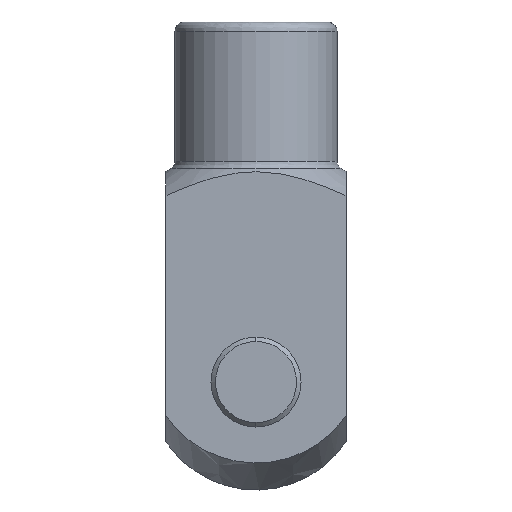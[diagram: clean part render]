
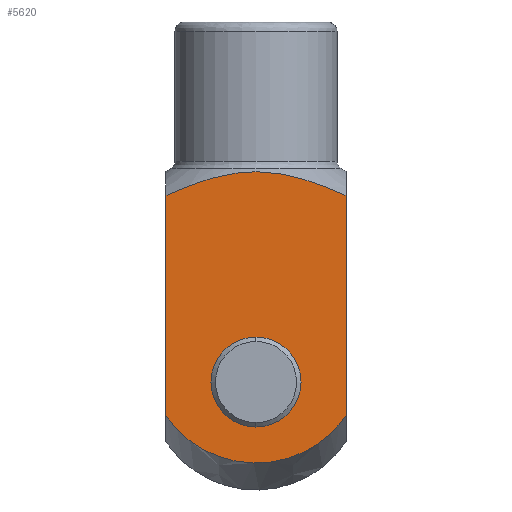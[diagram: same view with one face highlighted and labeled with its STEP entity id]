
A CAD part, front view. The second image highlights one B-rep face of the part: STEP entity #5620.
In plain terms, the highlighted planar face has unit normal (0, -1, 0).
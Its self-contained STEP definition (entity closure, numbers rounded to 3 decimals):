
#160 = EDGE_LOOP ( 'NONE', ( #5506, #3307 ) ) ;
#201 = VERTEX_POINT ( 'NONE', #1788 ) ;
#258 = DIRECTION ( 'NONE',  ( 0., 0., -1. ) ) ;
#342 = CARTESIAN_POINT ( 'NONE',  ( 4.693, -10., 34.702 ) ) ;
#376 = CARTESIAN_POINT ( 'NONE',  ( 0., -10., 17. ) ) ;
#416 = DIRECTION ( 'NONE',  ( 0., 0., 1. ) ) ;
#423 = DIRECTION ( 'NONE',  ( 0., -1., 0. ) ) ;
#678 = LINE ( 'NONE', #5809, #4954 ) ;
#822 = EDGE_CURVE ( 'NONE', #201, #1258, #4290, .T. ) ;
#855 = CARTESIAN_POINT ( 'NONE',  ( 5.951, -10., 34.337 ) ) ;
#893 = CARTESIAN_POINT ( 'NONE',  ( -5.976, -10., 34.329 ) ) ;
#940 = CARTESIAN_POINT ( 'NONE',  ( 9.204, -10., 33.086 ) ) ;
#1008 = CIRCLE ( 'NONE', #3847, 5. ) ;
#1065 = FACE_BOUND ( 'NONE', #160, .T. ) ;
#1102 = EDGE_LOOP ( 'NONE', ( #4644, #2074, #1601, #5604 ) ) ;
#1239 = VERTEX_POINT ( 'NONE', #6024 ) ;
#1244 = EDGE_CURVE ( 'NONE', #1258, #3290, #2148, .T. ) ;
#1258 = VERTEX_POINT ( 'NONE', #4548 ) ;
#1350 = CARTESIAN_POINT ( 'NONE',  ( 8.401, -10., 33.426 ) ) ;
#1443 = VERTEX_POINT ( 'NONE', #376 ) ;
#1601 = ORIENTED_EDGE ( 'NONE', *, *, #4192, .F. ) ;
#1777 = CARTESIAN_POINT ( 'NONE',  ( 10., -10., 8.254 ) ) ;
#1788 = CARTESIAN_POINT ( 'NONE',  ( -10., -10., 32.728 ) ) ;
#1860 = CARTESIAN_POINT ( 'NONE',  ( -9.207, -10., 33.085 ) ) ;
#1879 = CARTESIAN_POINT ( 'NONE',  ( -0.442, -10., 35.363 ) ) ;
#1931 = VECTOR ( 'NONE', #5072, 1000. ) ;
#2017 = CIRCLE ( 'NONE', #5597, 5. ) ;
#2040 = EDGE_CURVE ( 'NONE', #1443, #2915, #2017, .T. ) ;
#2074 = ORIENTED_EDGE ( 'NONE', *, *, #822, .F. ) ;
#2148 = LINE ( 'NONE', #5612, #1931 ) ;
#2256 = AXIS2_PLACEMENT_3D ( 'NONE', #4841, #423, #2842 ) ;
#2348 = CARTESIAN_POINT ( 'NONE',  ( -1.744, -10., 35.273 ) ) ;
#2614 = CARTESIAN_POINT ( 'NONE',  ( 0., -10., 12. ) ) ;
#2793 = CARTESIAN_POINT ( 'NONE',  ( -10., -10., 8.254 ) ) ;
#2840 = CARTESIAN_POINT ( 'NONE',  ( -8.407, -10., 33.423 ) ) ;
#2842 = DIRECTION ( 'NONE',  ( 0., 0., -1. ) ) ;
#2915 = VERTEX_POINT ( 'NONE', #5083 ) ;
#3103 = EDGE_CURVE ( 'NONE', #1239, #3290, #4330, .T. ) ;
#3110 = DIRECTION ( 'NONE',  ( 0., 0., -1. ) ) ;
#3290 = VERTEX_POINT ( 'NONE', #3446 ) ;
#3307 = ORIENTED_EDGE ( 'NONE', *, *, #2040, .T. ) ;
#3329 = CARTESIAN_POINT ( 'NONE',  ( 10., -10., 32.728 ) ) ;
#3353 = PLANE ( 'NONE',  #2256 ) ;
#3446 = CARTESIAN_POINT ( 'NONE',  ( 10., -10., 8.254 ) ) ;
#3737 = CARTESIAN_POINT ( 'NONE',  ( -6.792, -10., 34.046 ) ) ;
#3785 = CARTESIAN_POINT ( 'NONE',  ( 4.269, -10., 34.813 ) ) ;
#3847 = AXIS2_PLACEMENT_3D ( 'NONE', #2614, #4558, #3110 ) ;
#4079 = CARTESIAN_POINT ( 'NONE',  ( 0., -10., 12. ) ) ;
#4102 = DIRECTION ( 'NONE',  ( 0., 1., 0. ) ) ;
#4192 = EDGE_CURVE ( 'NONE', #1239, #201, #678, .T. ) ;
#4232 = CARTESIAN_POINT ( 'NONE',  ( 2.994, -10., 35.09 ) ) ;
#4290 = B_SPLINE_CURVE_WITH_KNOTS ( 'NONE', 3,
 ( #5768, #1860, #2840, #3737, #893, #5788, #5214, #4726, #2348, #4771, #1879, #6306, #5719, #4232, #5272, #3785, #342, #855, #5250, #1350, #940, #3329 ),
 .UNSPECIFIED., .F., .F.,
 ( 4, 2, 2, 2, 2, 2, 2, 2, 2, 2, 4 ),
 ( 0., 0.003, 0.005, 0.008, 0.009, 0.01, 0.013, 0.014, 0.016, 0.018, 0.021 ),
 .UNSPECIFIED. ) ;
#4330 =( BOUNDED_CURVE ( )  B_SPLINE_CURVE ( 3, ( #2793, #4756, #6169, #1777 ),
 .UNSPECIFIED., .F., .F. ) 
 B_SPLINE_CURVE_WITH_KNOTS ( ( 4, 4 ),
 ( 0., 0.023 ),
 .UNSPECIFIED. ) 
 CURVE ( )  GEOMETRIC_REPRESENTATION_ITEM ( )  RATIONAL_B_SPLINE_CURVE ( ( 1., 0.712, 0.712, 1. ) ) 
 REPRESENTATION_ITEM ( '' )  );
#4548 = CARTESIAN_POINT ( 'NONE',  ( 10., -10., 32.728 ) ) ;
#4558 = DIRECTION ( 'NONE',  ( 0., 1., 0. ) ) ;
#4644 = ORIENTED_EDGE ( 'NONE', *, *, #1244, .F. ) ;
#4647 = EDGE_CURVE ( 'NONE', #2915, #1443, #1008, .T. ) ;
#4726 = CARTESIAN_POINT ( 'NONE',  ( -2.182, -10., 35.219 ) ) ;
#4756 = CARTESIAN_POINT ( 'NONE',  ( -4.684, -10., 0.539 ) ) ;
#4771 = CARTESIAN_POINT ( 'NONE',  ( -0.875, -10., 35.345 ) ) ;
#4841 = CARTESIAN_POINT ( 'NONE',  ( 10., -10., 36. ) ) ;
#4954 = VECTOR ( 'NONE', #416, 1000. ) ;
#5072 = DIRECTION ( 'NONE',  ( 0., 0., -1. ) ) ;
#5083 = CARTESIAN_POINT ( 'NONE',  ( 0., -10., 7. ) ) ;
#5214 = CARTESIAN_POINT ( 'NONE',  ( -3.474, -10., 35.011 ) ) ;
#5250 = CARTESIAN_POINT ( 'NONE',  ( 6.774, -10., 34.052 ) ) ;
#5272 = CARTESIAN_POINT ( 'NONE',  ( 3.42, -10., 35.007 ) ) ;
#5506 = ORIENTED_EDGE ( 'NONE', *, *, #4647, .T. ) ;
#5597 = AXIS2_PLACEMENT_3D ( 'NONE', #4079, #4102, #258 ) ;
#5604 = ORIENTED_EDGE ( 'NONE', *, *, #3103, .T. ) ;
#5612 = CARTESIAN_POINT ( 'NONE',  ( 10., -10., 36. ) ) ;
#5620 = ADVANCED_FACE ( 'NONE', ( #1065, #5628 ), #3353, .T. ) ;
#5628 = FACE_OUTER_BOUND ( 'NONE', #1102, .T. ) ;
#5719 = CARTESIAN_POINT ( 'NONE',  ( 1.713, -10., 35.292 ) ) ;
#5768 = CARTESIAN_POINT ( 'NONE',  ( -10., -10., 32.728 ) ) ;
#5788 = CARTESIAN_POINT ( 'NONE',  ( -4.317, -10., 34.812 ) ) ;
#5809 = CARTESIAN_POINT ( 'NONE',  ( -10., -10., 36. ) ) ;
#6024 = CARTESIAN_POINT ( 'NONE',  ( -10., -10., 8.254 ) ) ;
#6169 = CARTESIAN_POINT ( 'NONE',  ( 4.684, -10., 0.539 ) ) ;
#6306 = CARTESIAN_POINT ( 'NONE',  ( 0.855, -10., 35.364 ) ) ;
